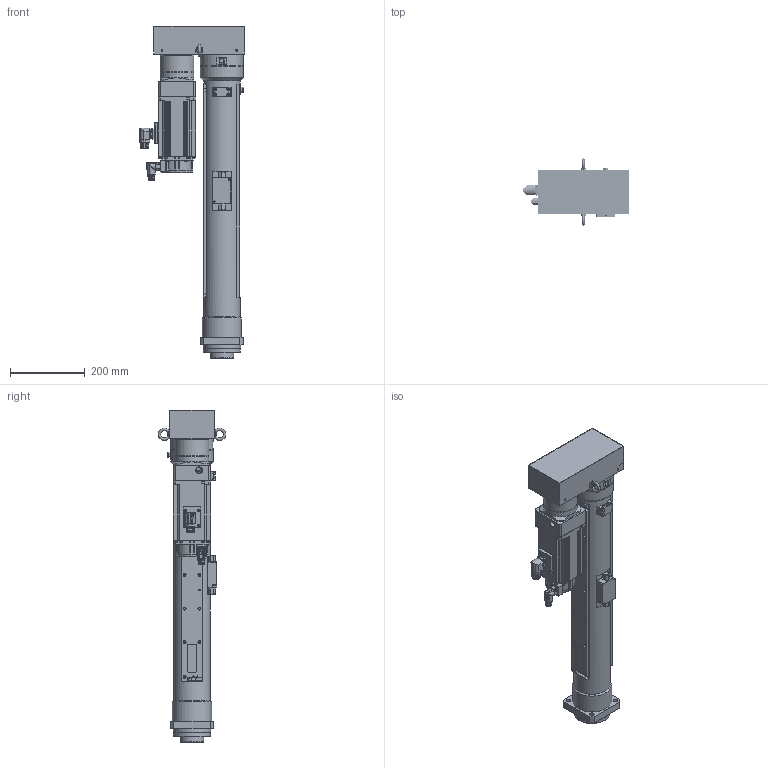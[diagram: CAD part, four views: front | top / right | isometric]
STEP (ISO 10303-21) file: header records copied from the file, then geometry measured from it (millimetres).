
FILE_DESCRIPTION( ('This file contains a STEP AP42 implementation' ,'as created by ZW3D STEP Interface translator.') ,'2;1' );
FILE_NAME( 'OACIS-DC-P020-500-215-A6V400_V20.51.stp' ,'26 414.181210', (''), ('ZWCAD Software Co.'), 'Version 1.0', 'ZW3D to STEP translator', '' );
FILE_SCHEMA(('AUTOMOTIVE_DESIGN { 1 0 10303 214 1 1 1 1 }'));
Length unit declared in the file: millimetre
Products named in the file (1): 0
Bounding box: 282.8 x 180.9 x 888 mm (x, y, z)
Volume: 8706554.9 mm3; surface area: 1446388.6 mm2
Topology: 45 solids, 45 shells, 2367 faces, 6097 edges, 4070 vertices
Faces by surface type: plane 1032, cylinder 917, cone 253, torus 87, bspline 58, sphere 20
Full cylindrical faces by diameter (mm): 1.25 x12, 1.6 x8, 2.232 x6, 2.459 x5, 2.75 x4, 2.8 x1, 3.2 x5, 3.3 x100, 4.2 x4, 4.3 x36, 4.5 x4, 5 x32, 5.5 x9, 6 x8, 6.5 x4, 6.6 x8, 6.647 x5, 6.8 x36, 7 x12, 8 x52, 8.4 x8, 8.5 x17, 9 x4, 11 x12, 12 x1, 13.4 x1, 15 x8, 15.5 x2, 15.54 x1, 16 x1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
Entity records: 82070 total; most frequent: CARTESIAN_POINT 18588, DIRECTION 13029, ORIENTED_EDGE 11956, EDGE_CURVE 5978, AXIS2_PLACEMENT_3D 4982, VERTEX_POINT 3995, VECTOR 3065, LINE 3065
